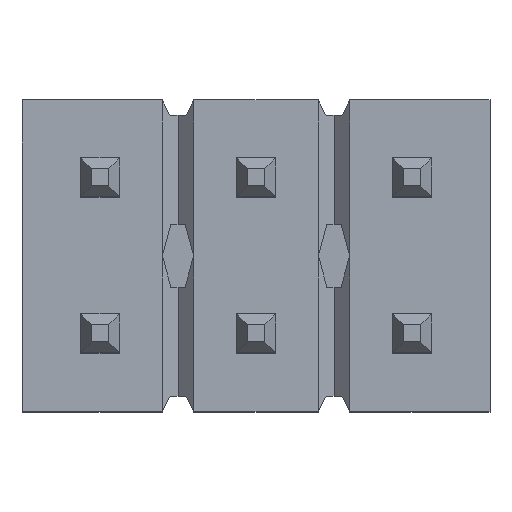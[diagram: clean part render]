
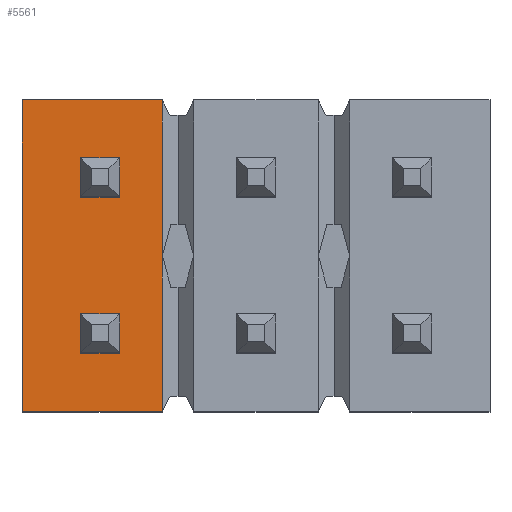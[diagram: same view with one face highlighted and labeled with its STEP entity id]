
A CAD part, top view. The second image highlights one B-rep face of the part: STEP entity #5561.
In plain terms, the highlighted planar face has unit normal (0, 0, 1).
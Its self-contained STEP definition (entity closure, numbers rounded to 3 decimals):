
#4263 = VERTEX_POINT('',#4264);
#4264 = CARTESIAN_POINT('',(-1.524,-2.569,2.58));
#4542 = VERTEX_POINT('',#4543);
#4543 = CARTESIAN_POINT('',(-1.524,-0.029,2.58));
#4549 = EDGE_CURVE('',#4263,#4542,#4550,.T.);
#4550 = LINE('',#4551,#4552);
#4551 = CARTESIAN_POINT('',(-1.524,-7.649,2.58));
#4552 = VECTOR('',#4553,1.);
#4553 = DIRECTION('',(0.,1.,0.));
#4611 = VERTEX_POINT('',#4612);
#4612 = CARTESIAN_POINT('',(-1.524,2.511,2.58));
#4632 = EDGE_CURVE('',#4542,#4611,#4633,.T.);
#4633 = LINE('',#4634,#4635);
#4634 = CARTESIAN_POINT('',(-1.524,-7.649,2.58));
#4635 = VECTOR('',#4636,1.);
#4636 = DIRECTION('',(0.,1.,0.));
#4985 = EDGE_CURVE('',#4986,#4263,#4988,.T.);
#4986 = VERTEX_POINT('',#4987);
#4987 = CARTESIAN_POINT('',(-3.81,-2.569,2.58));
#4988 = LINE('',#4989,#4990);
#4989 = CARTESIAN_POINT('',(-3.81,-2.569,2.58));
#4990 = VECTOR('',#4991,1.);
#4991 = DIRECTION('',(1.,0.,0.));
#5176 = VERTEX_POINT('',#5177);
#5177 = CARTESIAN_POINT('',(-3.81,2.511,2.58));
#5183 = EDGE_CURVE('',#4611,#5176,#5184,.T.);
#5184 = LINE('',#5185,#5186);
#5185 = CARTESIAN_POINT('',(3.81,2.511,2.58));
#5186 = VECTOR('',#5187,1.);
#5187 = DIRECTION('',(-1.,0.,0.));
#5216 = EDGE_CURVE('',#5176,#4986,#5217,.T.);
#5217 = LINE('',#5218,#5219);
#5218 = CARTESIAN_POINT('',(-3.81,2.511,2.58));
#5219 = VECTOR('',#5220,1.);
#5220 = DIRECTION('',(0.,-1.,0.));
#5561 = ADVANCED_FACE('',(#5562,#5569,#5603),#5637,.T.);
#5562 = FACE_BOUND('',#5563,.T.);
#5563 = EDGE_LOOP('',(#5564,#5565,#5566,#5567,#5568));
#5564 = ORIENTED_EDGE('',*,*,#4985,.T.);
#5565 = ORIENTED_EDGE('',*,*,#4549,.T.);
#5566 = ORIENTED_EDGE('',*,*,#4632,.T.);
#5567 = ORIENTED_EDGE('',*,*,#5183,.T.);
#5568 = ORIENTED_EDGE('',*,*,#5216,.T.);
#5569 = FACE_BOUND('',#5570,.T.);
#5570 = EDGE_LOOP('',(#5571,#5581,#5589,#5597));
#5571 = ORIENTED_EDGE('',*,*,#5572,.F.);
#5572 = EDGE_CURVE('',#5573,#5575,#5577,.T.);
#5573 = VERTEX_POINT('',#5574);
#5574 = CARTESIAN_POINT('',(-2.223,-0.982,2.58));
#5575 = VERTEX_POINT('',#5576);
#5576 = CARTESIAN_POINT('',(-2.858,-0.982,2.58));
#5577 = LINE('',#5578,#5579);
#5578 = CARTESIAN_POINT('',(-2.223,-0.982,2.58));
#5579 = VECTOR('',#5580,1.);
#5580 = DIRECTION('',(-1.,0.,0.));
#5581 = ORIENTED_EDGE('',*,*,#5582,.F.);
#5582 = EDGE_CURVE('',#5583,#5573,#5585,.T.);
#5583 = VERTEX_POINT('',#5584);
#5584 = CARTESIAN_POINT('',(-2.223,-1.617,2.58));
#5585 = LINE('',#5586,#5587);
#5586 = CARTESIAN_POINT('',(-2.223,-1.617,2.58));
#5587 = VECTOR('',#5588,1.);
#5588 = DIRECTION('',(0.,1.,0.));
#5589 = ORIENTED_EDGE('',*,*,#5590,.F.);
#5590 = EDGE_CURVE('',#5591,#5583,#5593,.T.);
#5591 = VERTEX_POINT('',#5592);
#5592 = CARTESIAN_POINT('',(-2.858,-1.617,2.58));
#5593 = LINE('',#5594,#5595);
#5594 = CARTESIAN_POINT('',(-2.858,-1.617,2.58));
#5595 = VECTOR('',#5596,1.);
#5596 = DIRECTION('',(1.,0.,0.));
#5597 = ORIENTED_EDGE('',*,*,#5598,.F.);
#5598 = EDGE_CURVE('',#5575,#5591,#5599,.T.);
#5599 = LINE('',#5600,#5601);
#5600 = CARTESIAN_POINT('',(-2.858,-0.982,2.58));
#5601 = VECTOR('',#5602,1.);
#5602 = DIRECTION('',(0.,-1.,0.));
#5603 = FACE_BOUND('',#5604,.T.);
#5604 = EDGE_LOOP('',(#5605,#5615,#5623,#5631));
#5605 = ORIENTED_EDGE('',*,*,#5606,.F.);
#5606 = EDGE_CURVE('',#5607,#5609,#5611,.T.);
#5607 = VERTEX_POINT('',#5608);
#5608 = CARTESIAN_POINT('',(-2.223,1.559,2.58));
#5609 = VERTEX_POINT('',#5610);
#5610 = CARTESIAN_POINT('',(-2.858,1.559,2.58));
#5611 = LINE('',#5612,#5613);
#5612 = CARTESIAN_POINT('',(-2.223,1.559,2.58));
#5613 = VECTOR('',#5614,1.);
#5614 = DIRECTION('',(-1.,0.,0.));
#5615 = ORIENTED_EDGE('',*,*,#5616,.F.);
#5616 = EDGE_CURVE('',#5617,#5607,#5619,.T.);
#5617 = VERTEX_POINT('',#5618);
#5618 = CARTESIAN_POINT('',(-2.223,0.924,2.58));
#5619 = LINE('',#5620,#5621);
#5620 = CARTESIAN_POINT('',(-2.223,0.924,2.58));
#5621 = VECTOR('',#5622,1.);
#5622 = DIRECTION('',(0.,1.,0.));
#5623 = ORIENTED_EDGE('',*,*,#5624,.F.);
#5624 = EDGE_CURVE('',#5625,#5617,#5627,.T.);
#5625 = VERTEX_POINT('',#5626);
#5626 = CARTESIAN_POINT('',(-2.858,0.924,2.58));
#5627 = LINE('',#5628,#5629);
#5628 = CARTESIAN_POINT('',(-2.858,0.924,2.58));
#5629 = VECTOR('',#5630,1.);
#5630 = DIRECTION('',(1.,0.,0.));
#5631 = ORIENTED_EDGE('',*,*,#5632,.F.);
#5632 = EDGE_CURVE('',#5609,#5625,#5633,.T.);
#5633 = LINE('',#5634,#5635);
#5634 = CARTESIAN_POINT('',(-2.858,1.559,2.58));
#5635 = VECTOR('',#5636,1.);
#5636 = DIRECTION('',(0.,-1.,0.));
#5637 = PLANE('',#5638);
#5638 = AXIS2_PLACEMENT_3D('',#5639,#5640,#5641);
#5639 = CARTESIAN_POINT('',(0.,-0.029,2.58));
#5640 = DIRECTION('',(0.,0.,1.));
#5641 = DIRECTION('',(0.,-1.,0.));
